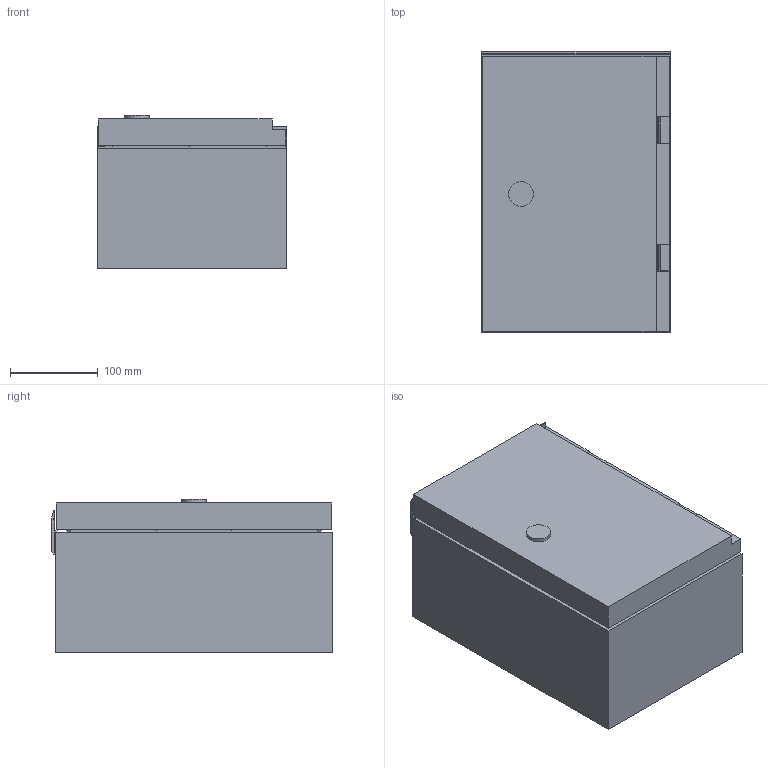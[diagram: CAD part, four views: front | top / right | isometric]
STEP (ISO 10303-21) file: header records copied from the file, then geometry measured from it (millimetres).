
FILE_DESCRIPTION(/* description */ ('STEP AP203'),/* implementation_level */ '2;1');
FILE_NAME(/* name */ 'UCP320(0)',/* time_stamp */ '2024-03-11T15:45:36+01:00',/* author */ ('License CC BY-ND 4.0'),/* organization */ ('CADENAS'),/* preprocessor_version */ 'ST-DEVELOPER v19.3',/* originating_system */ 'PARTsolutions',/* authorisation */ ' ');
FILE_SCHEMA (('CONFIG_CONTROL_DESIGN'));
Length unit declared in the file: millimetre
Products named in the file (5): UCP320(0); UCP320(0)_P1; UCP320(0)_P2; UCP/UCPT320(0)_P5; UCP320_P4
Assembly tree (4 placements, depth 2):
  UCP320(0)
    UCP320(0)_P1
    UCP320(0)_P2
    UCP/UCPT320(0)_P5
    UCP320_P4
Bounding box: 215 x 319.25 x 174 mm (x, y, z)
Volume: 3265205.4 mm3; surface area: 691052.9 mm2
Topology: 4 solids, 4 shells, 224 faces, 607 edges, 407 vertices
Faces by surface type: plane 202, cylinder 20, cone 2
Full cylindrical faces by diameter (mm): 3.5 x4, 5.1 x2, 8 x4, 10 x4, 19.8 x1, 22 x1, 28 x1
Entity records: 6928 total; most frequent: CARTESIAN_POINT 1212, ORIENTED_EDGE 1158, DIRECTION 1079, EDGE_CURVE 579, LINE 533, VECTOR 533, VERTEX_POINT 398, AXIS2_PLACEMENT_3D 273
